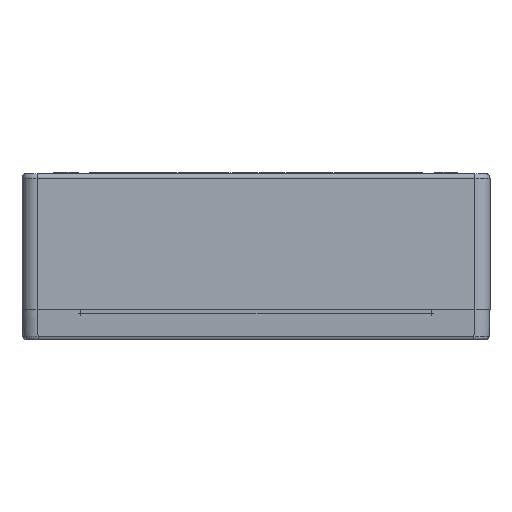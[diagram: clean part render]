
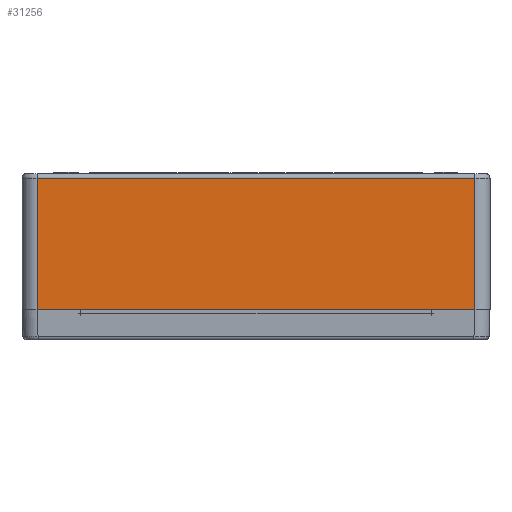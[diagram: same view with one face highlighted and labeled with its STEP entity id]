
A CAD part, left-side view. The second image highlights one B-rep face of the part: STEP entity #31256.
In plain terms, the highlighted planar face has unit normal (-1, 0, 0).
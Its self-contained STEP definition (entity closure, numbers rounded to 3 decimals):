
#78 = VECTOR ( 'NONE', #35394, 1000. ) ;
#878 = VECTOR ( 'NONE', #6747, 1000. ) ;
#2119 = DIRECTION ( 'NONE',  ( 0., 0., 1. ) ) ;
#5923 = EDGE_CURVE ( 'NONE', #23738, #16119, #25988, .T. ) ;
#5958 = EDGE_CURVE ( 'NONE', #11521, #8837, #6425, .T. ) ;
#6425 = LINE ( 'NONE', #16023, #15983 ) ;
#6747 = DIRECTION ( 'NONE',  ( 0., -1., 0. ) ) ;
#8837 = VERTEX_POINT ( 'NONE', #37750 ) ;
#8954 = ORIENTED_EDGE ( 'NONE', *, *, #5923, .T. ) ;
#11290 = DIRECTION ( 'NONE',  ( 0., 1., 0. ) ) ;
#11423 = EDGE_CURVE ( 'NONE', #8837, #23738, #38864, .T. ) ;
#11494 = FACE_OUTER_BOUND ( 'NONE', #38902, .T. ) ;
#11521 = VERTEX_POINT ( 'NONE', #32535 ) ;
#13574 = LINE ( 'NONE', #28244, #28142 ) ;
#15983 = VECTOR ( 'NONE', #16439, 1000. ) ;
#16020 = CARTESIAN_POINT ( 'NONE',  ( -300., 145., 0. ) ) ;
#16023 = CARTESIAN_POINT ( 'NONE',  ( -300., 145., 87. ) ) ;
#16049 = AXIS2_PLACEMENT_3D ( 'NONE', #18161, #27283, #11290 ) ;
#16119 = VERTEX_POINT ( 'NONE', #22117 ) ;
#16439 = DIRECTION ( 'NONE',  ( 0., 1., 0. ) ) ;
#16914 = ORIENTED_EDGE ( 'NONE', *, *, #29283, .T. ) ;
#18161 = CARTESIAN_POINT ( 'NONE',  ( -300., 155., 90. ) ) ;
#20836 = PLANE ( 'NONE',  #16049 ) ;
#22117 = CARTESIAN_POINT ( 'NONE',  ( -300., -145., 0. ) ) ;
#22220 = CARTESIAN_POINT ( 'NONE',  ( -300., 155., 0. ) ) ;
#23738 = VERTEX_POINT ( 'NONE', #16020 ) ;
#25988 = LINE ( 'NONE', #22220, #878 ) ;
#27283 = DIRECTION ( 'NONE',  ( 1., 0., 0. ) ) ;
#28142 = VECTOR ( 'NONE', #2119, 1000. ) ;
#28244 = CARTESIAN_POINT ( 'NONE',  ( -300., -145., 90. ) ) ;
#28741 = CARTESIAN_POINT ( 'NONE',  ( -300., 145., 90. ) ) ;
#29283 = EDGE_CURVE ( 'NONE', #16119, #11521, #13574, .T. ) ;
#31256 = ADVANCED_FACE ( 'NONE', ( #11494 ), #20836, .F. ) ;
#32535 = CARTESIAN_POINT ( 'NONE',  ( -300., -145., 87. ) ) ;
#34238 = ORIENTED_EDGE ( 'NONE', *, *, #5958, .T. ) ;
#34305 = ORIENTED_EDGE ( 'NONE', *, *, #11423, .T. ) ;
#35394 = DIRECTION ( 'NONE',  ( 0., 0., -1. ) ) ;
#37750 = CARTESIAN_POINT ( 'NONE',  ( -300., 145., 87. ) ) ;
#38864 = LINE ( 'NONE', #28741, #78 ) ;
#38902 = EDGE_LOOP ( 'NONE', ( #16914, #34238, #34305, #8954 ) ) ;
